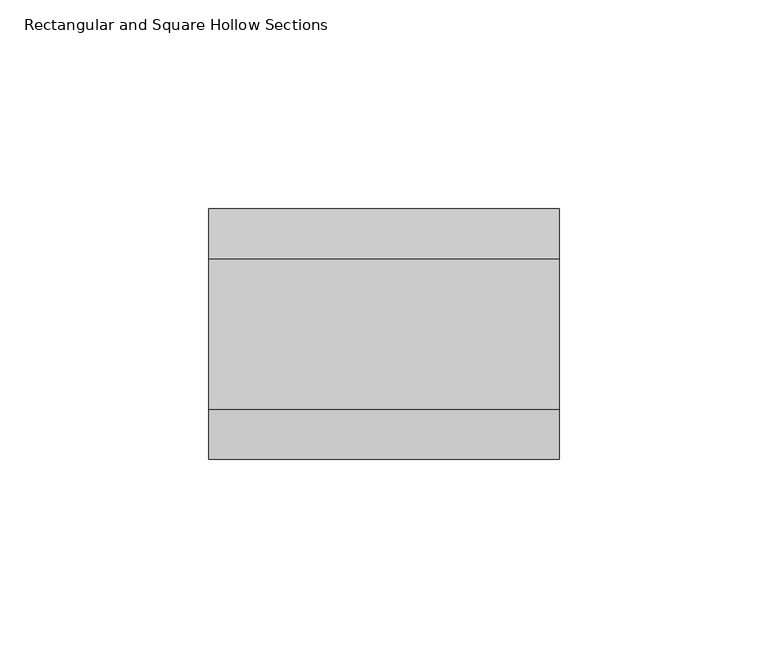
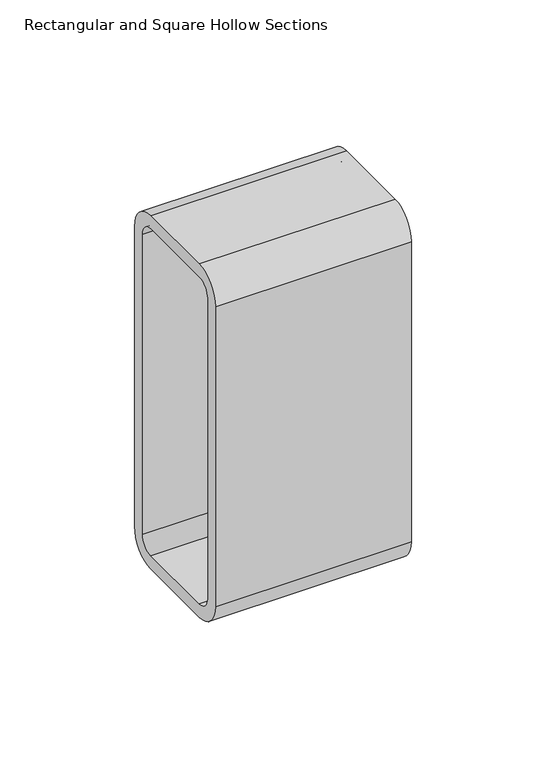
"""IFC4 building model written with IfcOpenShell, lengths in millimetres: beam geometry, Rectangular and Square Hollow Sections : TREC160x60x6."""

from ifc_helpers import new_model, si_unit, point, frame, frame_2d, origin, place, context, project, spatial, polyline, circle_curve, trimmed, segment, composite_curve, outline, extrude, source, transform, mapped, element, save


def rectangular_and_square_hollow_sections_c9b4ccbb(model_context):
    return source(origin(), model_context, "Body", "SweptSolid", [
        extrude(outline(composite_curve([segment(polyline([(30.0, 68.0), (30.0, -68.0)]), True, "CONTINUOUS"), segment(trimmed(circle_curve(frame_2d((18.0, -68.0)), 12.0), [point((30.0, -68.0))], [point((18.0, -80.0))], False, "CARTESIAN"), True, "CONTINUOUS"), segment(polyline([(18.0, -80.0), (-18.0, -80.0)]), True, "CONTINUOUS"), segment(trimmed(circle_curve(frame_2d((-18.0, -68.0)), 12.0), [point((-18.0, -80.0))], [point((-30.0, -68.0))], False, "CARTESIAN"), True, "CONTINUOUS"), segment(polyline([(-30.0, -68.0), (-30.0, 68.0)]), True, "CONTINUOUS"), segment(trimmed(circle_curve(frame_2d((-18.0, 68.0)), 12.0), [point((-30.0, 68.0))], [point((-18.0, 80.0))], False, "CARTESIAN"), True, "CONTINUOUS"), segment(polyline([(-18.0, 80.0), (18.0, 80.0)]), True, "CONTINUOUS"), segment(trimmed(circle_curve(frame_2d((18.0, 68.0)), 12.0), [point((18.0, 80.0))], [point((30.0, 68.0))], False, "CARTESIAN"), True, "CONTINUOUS")], self_intersect=False), holes=[composite_curve([segment(trimmed(circle_curve(frame_2d((-18.0, 68.0)), 6.0), [point((-18.0, 74.0))], [point((-24.0, 68.0))], True, "CARTESIAN"), True, "CONTINUOUS"), segment(polyline([(-24.0, 68.0), (-24.0, -68.0)]), True, "CONTINUOUS"), segment(trimmed(circle_curve(frame_2d((-18.0, -68.0)), 6.0), [point((-24.0, -68.0))], [point((-18.0, -74.0))], True, "CARTESIAN"), True, "CONTINUOUS"), segment(polyline([(-18.0, -74.0), (18.0, -74.0)]), True, "CONTINUOUS"), segment(trimmed(circle_curve(frame_2d((18.0, -68.0)), 6.0), [point((18.0, -74.0))], [point((24.0, -68.0))], True, "CARTESIAN"), True, "CONTINUOUS"), segment(polyline([(24.0, -68.0), (24.0, 68.0)]), True, "CONTINUOUS"), segment(trimmed(circle_curve(frame_2d((18.0, 68.0)), 6.0), [point((24.0, 68.0))], [point((18.0, 74.0))], True, "CARTESIAN"), True, "CONTINUOUS"), segment(polyline([(18.0, 74.0), (-18.0, 74.0)]), True, "CONTINUOUS")], self_intersect=False)]), frame((-63.0, 0.0, 0.0), z_axis=(1.0, 0.0, 0.0), x_axis=(0.0, 1.0, 0.0)), (0.0, 0.0, 1.0), 84.0),
    ])


if __name__ == "__main__":
    model = new_model("IFC4")
    model_context = context("Model", 3, world=origin())
    ifc_project = project(units=[si_unit("LENGTHUNIT", "METRE", prefix="MILLI")], contexts=[model_context])
    site = spatial("IfcSite", under=ifc_project)
    building = spatial("IfcBuilding", under=site)
    placement = place(None, origin())
    rectangular_and_square_hollow_sections_shape = rectangular_and_square_hollow_sections_c9b4ccbb(model_context)
    element("IfcBeam", 1, ObjectType="Rectangular and Square Hollow Sections : TREC160x60x6", at=placement, inside=building, context=model_context, shape_type="MappedRepresentation", body=[
        mapped(rectangular_and_square_hollow_sections_shape, transform((0.0, 0.0, 0.0), x_axis=(1.0, 0.0, 0.0), y_axis=(0.0, 1.0, 0.0), z_axis=(0.0, 0.0, 1.0))),
    ])
    save(model, "model.ifc")
